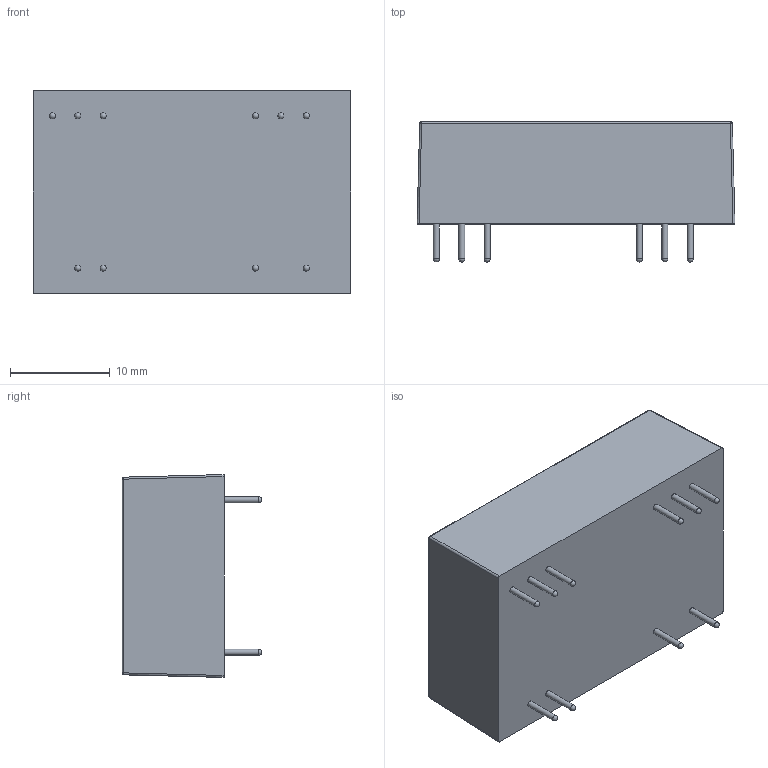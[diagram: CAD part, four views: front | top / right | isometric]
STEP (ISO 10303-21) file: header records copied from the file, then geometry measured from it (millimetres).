
FILE_DESCRIPTION (( 'STEP AP214' ), '1' );
FILE_NAME ('TEN 3WIRH.STEP', '2020-10-20T01:13:42', ( 'user' ), ( '' ), 'SwSTEP 2.0', 'SolidWorks 2016', '' );
FILE_SCHEMA (( 'AUTOMOTIVE_DESIGN' ));
Length unit declared in the file: millimetre
Products named in the file (2): TEN 3WIRH
Bounding box: 31.8 x 14 x 20.3 mm (x, y, z)
Volume: 6452.8 mm3; surface area: 2372.8 mm2
Topology: 1 solids, 1 shells, 38 faces, 110 edges, 60 vertices
Faces by surface type: cylinder 18, sphere 14, plane 6
Full cylindrical faces by diameter (mm): 0.6 x10
Entity records: 1125 total; most frequent: DIRECTION 164, CARTESIAN_POINT 148, ORIENTED_EDGE 112, AXIS2_PLACEMENT_3D 72, EDGE_LOOP 58, EDGE_CURVE 56, FACE_OUTER_BOUND 48, VERTEX_POINT 40
